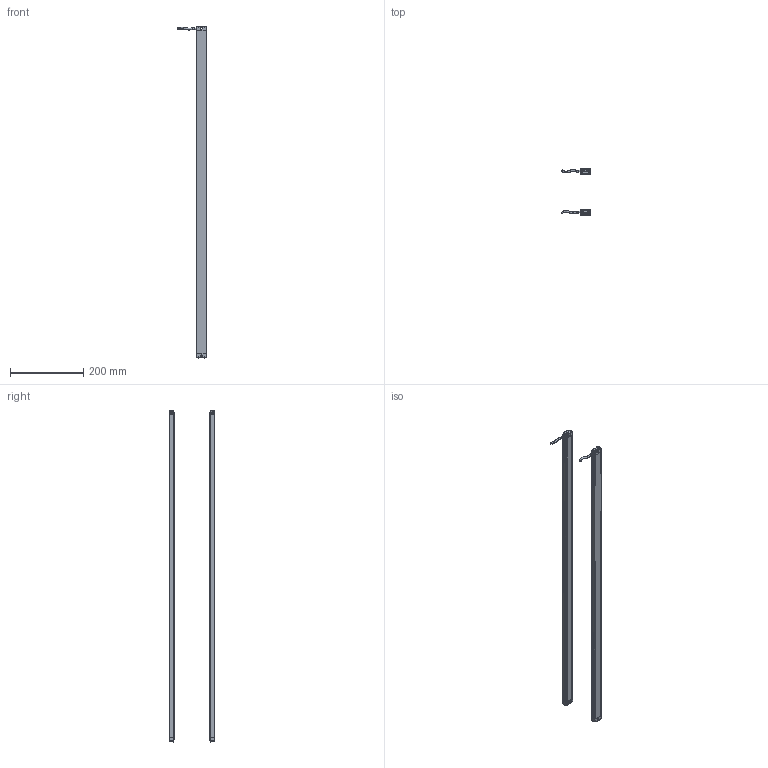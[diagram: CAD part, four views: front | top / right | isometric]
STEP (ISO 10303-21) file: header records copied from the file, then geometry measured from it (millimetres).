
FILE_DESCRIPTION(/* description */ (''),/* implementation_level */ '2;1');
FILE_NAME(/* name */ '2240（13x28w).stp',/* time_stamp */ '2020-07-14T20:12:50+08:00',/* author */ (''),/* organization */ (''),/* preprocessor_version */ 'ST-DEVELOPER v16',/* originating_system */ 'SIEMENS PLM Software NX 10.0',/* authorisation */ '');
FILE_SCHEMA (('AP203_CONFIGURATION_CONTROLLED_3D_DESIGN_OF_MECHANICAL_PARTS_AND_ASSEMBLIES_MIM_LF { 1 0 10303 403 2 1 2}'));
Length unit declared in the file: millimetre
Products named in the file (1): Admi58A03253m8c3
Bounding box: 79.6 x 125.02 x 906 mm (x, y, z)
Volume: 263380.7 mm3; surface area: 350051.6 mm2
Topology: 10 solids, 10 shells, 760 faces, 2150 edges, 1419 vertices
Faces by surface type: plane 356, cylinder 312, torus 52, bspline 40
Entity records: 28419 total; most frequent: CARTESIAN_POINT 8883, ORIENTED_EDGE 4300, DIRECTION 3785, EDGE_CURVE 2150, VERTEX_POINT 1419, AXIS2_PLACEMENT_3D 1285, LINE 1215, VECTOR 1215
